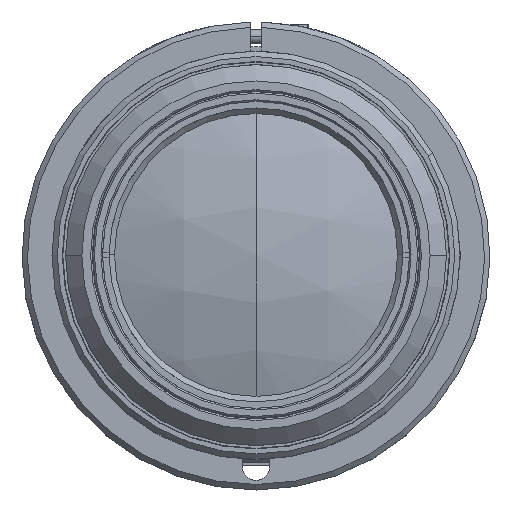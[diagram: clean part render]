
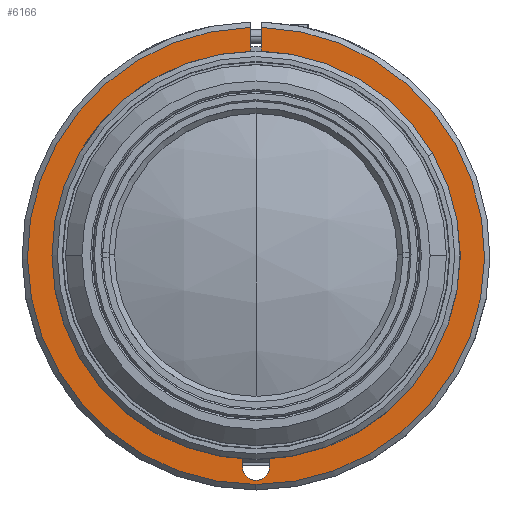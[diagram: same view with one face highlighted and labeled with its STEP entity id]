
A CAD part, top view. The second image highlights one B-rep face of the part: STEP entity #6166.
In plain terms, the highlighted planar face has unit normal (0, 0, 1).
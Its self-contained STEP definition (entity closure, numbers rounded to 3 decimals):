
#506 = LINE ( 'NONE', #11303, #3089 ) ;
#761 = LINE ( 'NONE', #18594, #1299 ) ;
#1299 = VECTOR ( 'NONE', #23032, 1000. ) ;
#1962 = AXIS2_PLACEMENT_3D ( 'NONE', #5312, #25125, #5451 ) ;
#2253 = AXIS2_PLACEMENT_3D ( 'NONE', #25479, #16724, #5793 ) ;
#2717 = ORIENTED_EDGE ( 'NONE', *, *, #10015, .F. ) ;
#3089 = VECTOR ( 'NONE', #11882, 1000. ) ;
#3145 = EDGE_CURVE ( 'NONE', #26456, #22949, #14223, .T. ) ;
#3185 = AXIS2_PLACEMENT_3D ( 'NONE', #28176, #26429, #15120 ) ;
#4521 = CARTESIAN_POINT ( 'NONE',  ( -1., -43.001, -53.925 ) ) ;
#4531 = VERTEX_POINT ( 'NONE', #11599 ) ;
#4693 = DIRECTION ( 'NONE',  ( 0., 0., -1. ) ) ;
#4997 = ORIENTED_EDGE ( 'NONE', *, *, #21082, .F. ) ;
#5061 = EDGE_CURVE ( 'NONE', #15461, #21743, #11995, .T. ) ;
#5312 = CARTESIAN_POINT ( 'NONE',  ( 0., 0., -53.925 ) ) ;
#5421 = CARTESIAN_POINT ( 'NONE',  ( 2.5, -36.815, -53.925 ) ) ;
#5451 = DIRECTION ( 'NONE',  ( 0., 1., 0. ) ) ;
#5793 = DIRECTION ( 'NONE',  ( 0., -1., 0. ) ) ;
#6166 = ADVANCED_FACE ( 'NONE', ( #6855 ), #15628, .F. ) ;
#6757 = ORIENTED_EDGE ( 'NONE', *, *, #5061, .F. ) ;
#6855 = FACE_OUTER_BOUND ( 'NONE', #17234, .T. ) ;
#6866 = CIRCLE ( 'NONE', #2253, 42. ) ;
#7256 = CARTESIAN_POINT ( 'NONE',  ( 1., -43.001, -53.925 ) ) ;
#8638 = EDGE_CURVE ( 'NONE', #11578, #26528, #27173, .T. ) ;
#9211 = AXIS2_PLACEMENT_3D ( 'NONE', #10412, #20247, #22540 ) ;
#10015 = EDGE_CURVE ( 'NONE', #4531, #22949, #17733, .T. ) ;
#10125 = EDGE_CURVE ( 'NONE', #17650, #26456, #6866, .T. ) ;
#10412 = CARTESIAN_POINT ( 'NONE',  ( 0., -38.75, -53.925 ) ) ;
#10742 = VECTOR ( 'NONE', #16157, 1000. ) ;
#11121 = ORIENTED_EDGE ( 'NONE', *, *, #14106, .F. ) ;
#11303 = CARTESIAN_POINT ( 'NONE',  ( -2.5, -38.75, -53.925 ) ) ;
#11310 = VECTOR ( 'NONE', #13309, 1000. ) ;
#11578 = VERTEX_POINT ( 'NONE', #22218 ) ;
#11599 = CARTESIAN_POINT ( 'NONE',  ( 1., 36.886, -53.925 ) ) ;
#11693 = VERTEX_POINT ( 'NONE', #5421 ) ;
#11882 = DIRECTION ( 'NONE',  ( 0., -1., 0. ) ) ;
#11910 = EDGE_CURVE ( 'NONE', #11578, #17650, #24194, .T. ) ;
#11995 = CIRCLE ( 'NONE', #9211, 2.5 ) ;
#12527 = CARTESIAN_POINT ( 'NONE',  ( 0., -42., -53.925 ) ) ;
#13309 = DIRECTION ( 'NONE',  ( 0., 1., 0. ) ) ;
#13475 = DIRECTION ( 'NONE',  ( 0., -1., 0. ) ) ;
#14106 = EDGE_CURVE ( 'NONE', #26528, #15461, #506, .T. ) ;
#14223 = CIRCLE ( 'NONE', #3185, 42. ) ;
#15120 = DIRECTION ( 'NONE',  ( 0., -1., 0. ) ) ;
#15461 = VERTEX_POINT ( 'NONE', #15904 ) ;
#15557 = ORIENTED_EDGE ( 'NONE', *, *, #10125, .T. ) ;
#15628 = PLANE ( 'NONE',  #22996 ) ;
#15840 = EDGE_CURVE ( 'NONE', #21743, #11693, #761, .T. ) ;
#15904 = CARTESIAN_POINT ( 'NONE',  ( -2.5, -38.75, -53.925 ) ) ;
#16157 = DIRECTION ( 'NONE',  ( 0., 1., 0. ) ) ;
#16724 = DIRECTION ( 'NONE',  ( 0., 0., 1. ) ) ;
#17234 = EDGE_LOOP ( 'NONE', ( #11121, #19032, #23737, #15557, #21076, #2717, #4997, #25283, #6757 ) ) ;
#17650 = VERTEX_POINT ( 'NONE', #21183 ) ;
#17733 = LINE ( 'NONE', #7256, #10742 ) ;
#18011 = AXIS2_PLACEMENT_3D ( 'NONE', #23061, #20922, #19333 ) ;
#18594 = CARTESIAN_POINT ( 'NONE',  ( 2.5, -38.75, -53.925 ) ) ;
#19032 = ORIENTED_EDGE ( 'NONE', *, *, #8638, .F. ) ;
#19333 = DIRECTION ( 'NONE',  ( 0., 1., 0. ) ) ;
#20247 = DIRECTION ( 'NONE',  ( 0., 0., 1. ) ) ;
#20449 = CARTESIAN_POINT ( 'NONE',  ( 1., 41.988, -53.925 ) ) ;
#20922 = DIRECTION ( 'NONE',  ( 0., 0., 1. ) ) ;
#21076 = ORIENTED_EDGE ( 'NONE', *, *, #3145, .T. ) ;
#21082 = EDGE_CURVE ( 'NONE', #11693, #4531, #24916, .T. ) ;
#21183 = CARTESIAN_POINT ( 'NONE',  ( -1., 41.988, -53.925 ) ) ;
#21743 = VERTEX_POINT ( 'NONE', #22006 ) ;
#22006 = CARTESIAN_POINT ( 'NONE',  ( 2.5, -38.75, -53.925 ) ) ;
#22218 = CARTESIAN_POINT ( 'NONE',  ( -1., 36.886, -53.925 ) ) ;
#22540 = DIRECTION ( 'NONE',  ( 0., 1., 0. ) ) ;
#22949 = VERTEX_POINT ( 'NONE', #20449 ) ;
#22996 = AXIS2_PLACEMENT_3D ( 'NONE', #24364, #4693, #13475 ) ;
#23032 = DIRECTION ( 'NONE',  ( 0., 1., 0. ) ) ;
#23061 = CARTESIAN_POINT ( 'NONE',  ( 0., 0., -53.925 ) ) ;
#23737 = ORIENTED_EDGE ( 'NONE', *, *, #11910, .T. ) ;
#24194 = LINE ( 'NONE', #4521, #11310 ) ;
#24364 = CARTESIAN_POINT ( 'NONE',  ( 0., 0., -53.925 ) ) ;
#24916 = CIRCLE ( 'NONE', #1962, 36.9 ) ;
#25125 = DIRECTION ( 'NONE',  ( 0., 0., 1. ) ) ;
#25283 = ORIENTED_EDGE ( 'NONE', *, *, #15840, .F. ) ;
#25479 = CARTESIAN_POINT ( 'NONE',  ( 0., 0., -53.925 ) ) ;
#26429 = DIRECTION ( 'NONE',  ( 0., 0., 1. ) ) ;
#26456 = VERTEX_POINT ( 'NONE', #12527 ) ;
#26528 = VERTEX_POINT ( 'NONE', #27449 ) ;
#27173 = CIRCLE ( 'NONE', #18011, 36.9 ) ;
#27449 = CARTESIAN_POINT ( 'NONE',  ( -2.5, -36.815, -53.925 ) ) ;
#28176 = CARTESIAN_POINT ( 'NONE',  ( 0., 0., -53.925 ) ) ;
